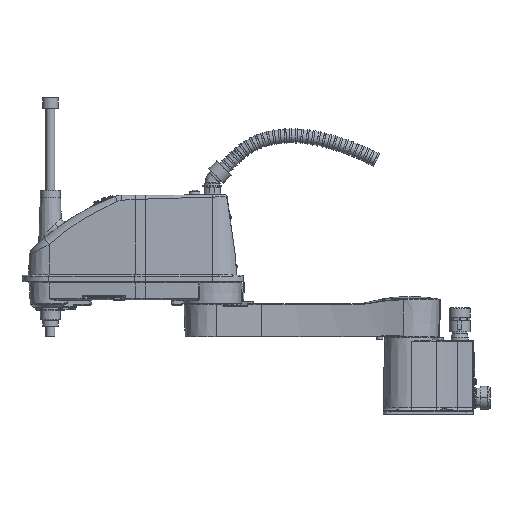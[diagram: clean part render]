
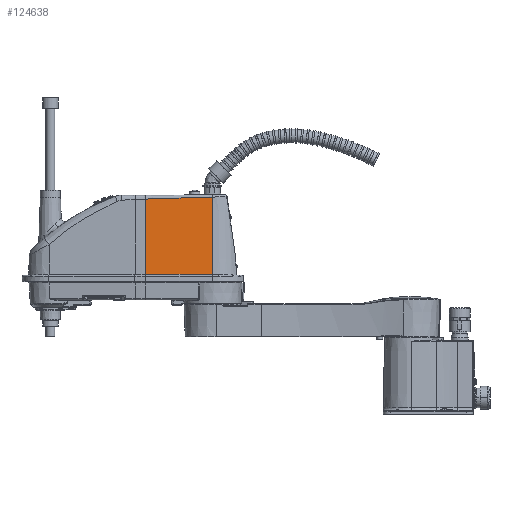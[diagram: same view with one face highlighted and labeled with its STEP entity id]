
A CAD part, top view. The second image highlights one B-rep face of the part: STEP entity #124638.
In plain terms, the highlighted planar face has unit normal (0, 0.035, 0.999).
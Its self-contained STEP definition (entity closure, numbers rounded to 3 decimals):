
#92952=DIRECTION('',(-1.,0.,0.));
#92953=VECTOR('',#92952,185.123);
#92954=CARTESIAN_POINT('',(-550.,388.895,76.305));
#92955=LINE('',#92954,#92953);
#93102=CARTESIAN_POINT('',(-550.,603.772,
68.802));
#93126=DIRECTION('',(0.,0.999,-0.035));
#93127=VECTOR('',#93126,215.007);
#93128=CARTESIAN_POINT('',(-550.,388.895,76.305));
#93129=LINE('',#93128,#93127);
#93157=CARTESIAN_POINT('',(-550.,603.772,
68.802));
#93158=CARTESIAN_POINT('',(-562.226,603.657,
68.806));
#93159=CARTESIAN_POINT('',(-588.247,603.262,
68.819));
#93160=CARTESIAN_POINT('',(-631.765,602.11,
68.86));
#93161=CARTESIAN_POINT('',(-680.427,600.369,
68.92));
#93162=CARTESIAN_POINT('',(-716.317,598.856,
68.973));
#93163=CARTESIAN_POINT('',(-735.123,598.044,
69.002));
#93182=CARTESIAN_POINT('',(-735.123,598.044,
69.002));
#93184=DIRECTION('',(0.,-0.999,0.035));
#93185=VECTOR('',#93184,209.276);
#93186=CARTESIAN_POINT('',(-735.123,598.044,
69.002));
#93187=LINE('',#93186,#93185);
#116610=CARTESIAN_POINT('',(-735.123,388.895,
76.305));
#116611=VERTEX_POINT('',#116610);
#116612=VERTEX_POINT('',#93182);
#116613=VERTEX_POINT('',#93102);
#116617=CARTESIAN_POINT('',(-550.,388.895,76.305));
#116619=VERTEX_POINT('',#116617);
#124626=CARTESIAN_POINT('',(-642.562,496.334,
72.553));
#124627=DIRECTION('',(0.,0.035,0.999));
#124628=DIRECTION('',(-1.,0.,0.));
#124629=AXIS2_PLACEMENT_3D('',#124626,#124627,#124628);
#124630=PLANE('',#124629);
#124631=ORIENTED_EDGE('',*,*,#124057,.T.);
#124633=ORIENTED_EDGE('',*,*,#124632,.F.);
#124634=ORIENTED_EDGE('',*,*,#124291,.F.);
#124635=ORIENTED_EDGE('',*,*,#124608,.F.);
#124636=EDGE_LOOP('',(#124631,#124633,#124634,#124635));
#124637=FACE_OUTER_BOUND('',#124636,.F.);
#93164=B_SPLINE_CURVE_WITH_KNOTS('',3,(#93157,#93158,#93159,#93160,#93161,
#93162,#93163),.UNSPECIFIED.,.F.,.F.,(4,1,1,1,4),(0.,0.25,0.5,0.75,
1.),.UNSPECIFIED.);
#124057=EDGE_CURVE('',#116619,#116611,#92955,.T.);
#124291=EDGE_CURVE('',#116613,#116612,#93164,.T.);
#124608=EDGE_CURVE('',#116619,#116613,#93129,.T.);
#124632=EDGE_CURVE('',#116612,#116611,#93187,.T.);
#124638=ADVANCED_FACE('',(#124637),#124630,.T.);
